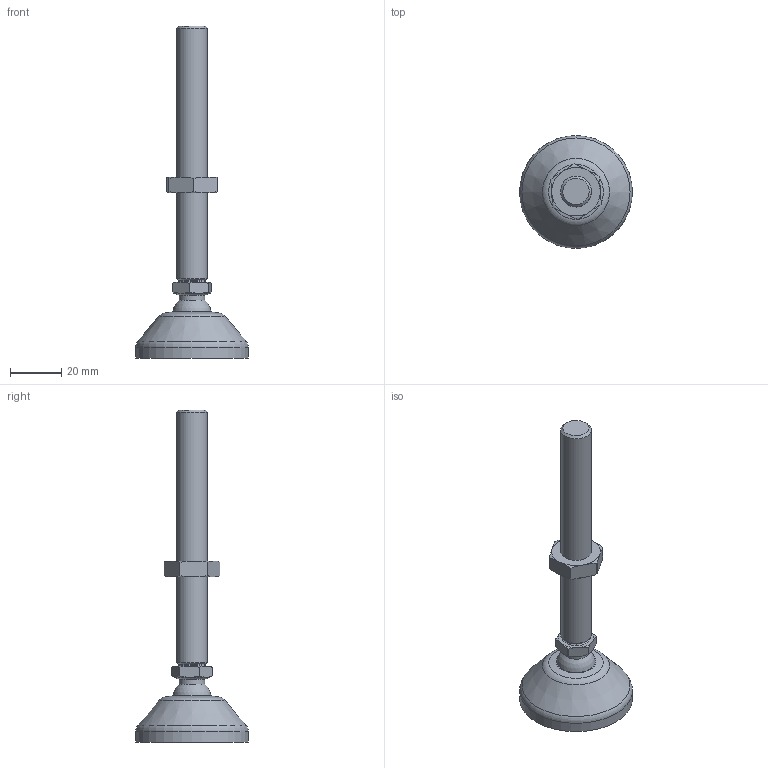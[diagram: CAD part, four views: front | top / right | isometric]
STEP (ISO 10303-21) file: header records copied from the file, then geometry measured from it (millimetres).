
FILE_DESCRIPTION(('STEP AP242'),'1');
FILE_NAME('TAPID45M12100PA.stp','2026-10-12T10:06:36',(' '),(' '),'Spatial InterOp 3D',' ',' ');
FILE_SCHEMA(('AP242_MANAGED_MODEL_BASED_3D_ENGINEERING_MIM_LF {1 0 10303 442 1 1 4}'));
Length unit declared in the file: millimetre
Products named in the file (5): Pied Ø45 M12x100 articulé réglable (+/- 35mm); Ecrou H DIN 439 M12; Tige filetée M12x100 (Ø15); Embase PA Ø45 (Ø15); TAPID45M12100PA
Assembly tree (4 placements, depth 3):
  TAPID45M12100PA
    Pied Ø45 M12x100 articulé réglable (+/- 35mm)
      Ecrou H DIN 439 M12
      Tige filetée M12x100 (Ø15)
      Embase PA Ø45 (Ø15)
Bounding box: 44 x 44 x 129.5 mm (x, y, z)
Volume: 30285.7 mm3; surface area: 11186.2 mm2
Topology: 3 solids, 4 shells, 81 faces, 176 edges, 105 vertices
Faces by surface type: torus 30, plane 22, cylinder 20, cone 7, sphere 2
Full cylindrical faces by diameter (mm): 10 x1, 10.2 x1, 10.25 x1, 12 x1, 15 x1, 15.5 x1, 34 x1, 44 x1
Entity records: 3425 total; most frequent: CARTESIAN_POINT 912, DIRECTION 350, ORIENTED_EDGE 296, AXIS2_PLACEMENT_3D 163, EDGE_CURVE 148, EDGE_LOOP 108, VERTEX_POINT 100, FACE_OUTER_BOUND 95
